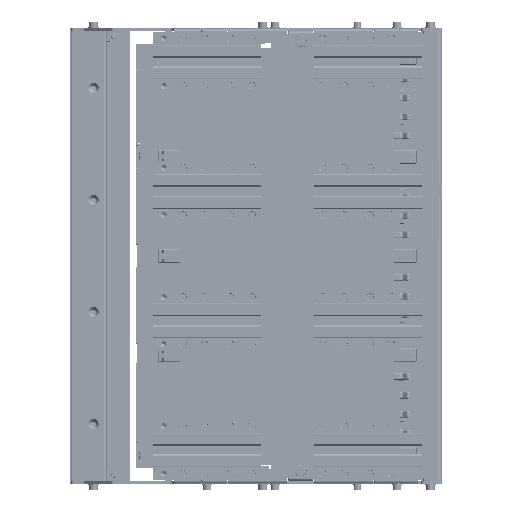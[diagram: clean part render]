
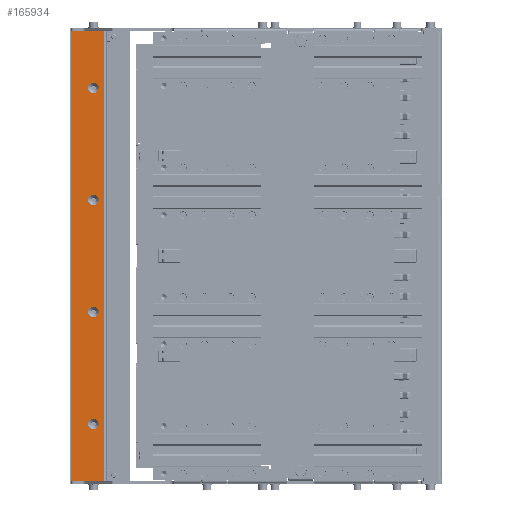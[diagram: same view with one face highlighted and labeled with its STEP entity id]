
A CAD part, left-side view. The second image highlights one B-rep face of the part: STEP entity #165934.
In plain terms, the highlighted planar face has unit normal (-1, 0, 0).
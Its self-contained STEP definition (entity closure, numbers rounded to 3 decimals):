
#2853 = EDGE_LOOP ( 'NONE', ( #227465, #365520 ) ) ;
#5384 = FACE_BOUND ( 'NONE', #366720, .T. ) ;
#7111 = DIRECTION ( 'NONE',  ( 0., 0., -1. ) ) ;
#7186 = LINE ( 'NONE', #232331, #393246 ) ;
#9237 = CARTESIAN_POINT ( 'NONE',  ( 294.756, 591.613, 283.388 ) ) ;
#11769 = CARTESIAN_POINT ( 'NONE',  ( 294.756, 617.613, 349.188 ) ) ;
#15869 = EDGE_CURVE ( 'NONE', #146715, #51069, #87638, .T. ) ;
#19821 = ORIENTED_EDGE ( 'NONE', *, *, #347347, .T. ) ;
#23968 = CARTESIAN_POINT ( 'NONE',  ( 294.756, 591.613, 277.288 ) ) ;
#24341 = DIRECTION ( 'NONE',  ( 0., 0., -1. ) ) ;
#32367 = VERTEX_POINT ( 'NONE', #380963 ) ;
#38768 = ORIENTED_EDGE ( 'NONE', *, *, #317880, .T. ) ;
#39312 = DIRECTION ( 'NONE',  ( 0., 0., 1. ) ) ;
#45997 = EDGE_LOOP ( 'NONE', ( #388534, #223592 ) ) ;
#51069 = VERTEX_POINT ( 'NONE', #186506 ) ;
#55588 = VECTOR ( 'NONE', #114005, 1000. ) ;
#56578 = VECTOR ( 'NONE', #39312, 1000. ) ;
#69579 = CARTESIAN_POINT ( 'NONE',  ( 294.756, 579.413, 349.188 ) ) ;
#73195 = AXIS2_PLACEMENT_3D ( 'NONE', #246484, #85140, #152810 ) ;
#85140 = DIRECTION ( 'NONE',  ( 1., 0., 0. ) ) ;
#87638 = CIRCLE ( 'NONE', #127142, 6.1 ) ;
#93380 = CARTESIAN_POINT ( 'NONE',  ( 294.756, 591.613, 283.388 ) ) ;
#102053 = DIRECTION ( 'NONE',  ( 1., 0., 0. ) ) ;
#106422 = VERTEX_POINT ( 'NONE', #260728 ) ;
#108428 = AXIS2_PLACEMENT_3D ( 'NONE', #262791, #399291, #169198 ) ;
#110907 = VERTEX_POINT ( 'NONE', #297363 ) ;
#113577 = CIRCLE ( 'NONE', #130909, 6.1 ) ;
#114005 = DIRECTION ( 'NONE',  ( 0., -1., 0. ) ) ;
#116140 = EDGE_CURVE ( 'NONE', #110907, #252796, #207077, .T. ) ;
#122283 = CIRCLE ( 'NONE', #336324, 6.1 ) ;
#123912 = DIRECTION ( 'NONE',  ( 0., 0., -1. ) ) ;
#127142 = AXIS2_PLACEMENT_3D ( 'NONE', #129242, #359481, #327752 ) ;
#129242 = CARTESIAN_POINT ( 'NONE',  ( 294.756, 591.613, -106.612 ) ) ;
#130909 = AXIS2_PLACEMENT_3D ( 'NONE', #353085, #282814, #189232 ) ;
#134914 = CIRCLE ( 'NONE', #301987, 6.1 ) ;
#136355 = ORIENTED_EDGE ( 'NONE', *, *, #369055, .T. ) ;
#139355 = FACE_BOUND ( 'NONE', #45997, .T. ) ;
#146715 = VERTEX_POINT ( 'NONE', #169889 ) ;
#151282 = VERTEX_POINT ( 'NONE', #382842 ) ;
#152810 = DIRECTION ( 'NONE',  ( 0., 1., 0. ) ) ;
#153377 = CARTESIAN_POINT ( 'NONE',  ( 294.756, 616.613, 349.188 ) ) ;
#164763 = DIRECTION ( 'NONE',  ( 0., 0., -1. ) ) ;
#165934 = ADVANCED_FACE ( 'NONE', ( #355604, #139355, #381264, #180704, #5384 ), #349902, .F. ) ;
#169198 = DIRECTION ( 'NONE',  ( 0., 0., -1. ) ) ;
#169889 = CARTESIAN_POINT ( 'NONE',  ( 294.756, 591.613, -100.512 ) ) ;
#180704 = FACE_BOUND ( 'NONE', #2853, .T. ) ;
#183143 = CIRCLE ( 'NONE', #343901, 6.1 ) ;
#186232 = VERTEX_POINT ( 'NONE', #194416 ) ;
#186506 = CARTESIAN_POINT ( 'NONE',  ( 294.756, 591.613, -112.712 ) ) ;
#189232 = DIRECTION ( 'NONE',  ( 0., 0., -1. ) ) ;
#193209 = AXIS2_PLACEMENT_3D ( 'NONE', #9237, #302926, #208060 ) ;
#194416 = CARTESIAN_POINT ( 'NONE',  ( 294.756, 579.413, -172.412 ) ) ;
#205938 = CARTESIAN_POINT ( 'NONE',  ( 294.756, 591.613, -106.612 ) ) ;
#207077 = CIRCLE ( 'NONE', #193209, 6.1 ) ;
#208060 = DIRECTION ( 'NONE',  ( 0., 0., -1. ) ) ;
#208628 = DIRECTION ( 'NONE',  ( 0., 0., -1. ) ) ;
#209910 = EDGE_CURVE ( 'NONE', #252796, #110907, #183143, .T. ) ;
#218156 = VERTEX_POINT ( 'NONE', #336887 ) ;
#219043 = CARTESIAN_POINT ( 'NONE',  ( 294.756, 591.613, 29.488 ) ) ;
#223592 = ORIENTED_EDGE ( 'NONE', *, *, #209910, .T. ) ;
#225617 = ORIENTED_EDGE ( 'NONE', *, *, #317447, .T. ) ;
#227465 = ORIENTED_EDGE ( 'NONE', *, *, #276412, .T. ) ;
#232331 = CARTESIAN_POINT ( 'NONE',  ( 294.756, 616.613, 349.188 ) ) ;
#237324 = CARTESIAN_POINT ( 'NONE',  ( 294.756, 591.613, 23.388 ) ) ;
#238813 = LINE ( 'NONE', #355917, #264463 ) ;
#246484 = CARTESIAN_POINT ( 'NONE',  ( 294.756, 617.613, 349.188 ) ) ;
#250884 = CIRCLE ( 'NONE', #108428, 6.1 ) ;
#251977 = EDGE_CURVE ( 'NONE', #298662, #32367, #333412, .T. ) ;
#252796 = VERTEX_POINT ( 'NONE', #23968 ) ;
#260343 = ORIENTED_EDGE ( 'NONE', *, *, #365599, .T. ) ;
#260728 = CARTESIAN_POINT ( 'NONE',  ( 294.756, 616.613, -172.412 ) ) ;
#262791 = CARTESIAN_POINT ( 'NONE',  ( 294.756, 591.613, 153.388 ) ) ;
#264463 = VECTOR ( 'NONE', #320026, 1000. ) ;
#266892 = VERTEX_POINT ( 'NONE', #219043 ) ;
#271081 = ORIENTED_EDGE ( 'NONE', *, *, #251977, .F. ) ;
#272857 = EDGE_CURVE ( 'NONE', #106422, #186232, #238813, .T. ) ;
#276412 = EDGE_CURVE ( 'NONE', #266892, #385386, #134914, .T. ) ;
#278199 = ORIENTED_EDGE ( 'NONE', *, *, #272857, .T. ) ;
#282814 = DIRECTION ( 'NONE',  ( 1., 0., 0. ) ) ;
#287875 = DIRECTION ( 'NONE',  ( 1., 0., 0. ) ) ;
#297363 = CARTESIAN_POINT ( 'NONE',  ( 294.756, 591.613, 289.488 ) ) ;
#298662 = VERTEX_POINT ( 'NONE', #153377 ) ;
#299251 = EDGE_CURVE ( 'NONE', #385386, #266892, #391831, .T. ) ;
#301987 = AXIS2_PLACEMENT_3D ( 'NONE', #237324, #405520, #208628 ) ;
#302926 = DIRECTION ( 'NONE',  ( 1., 0., 0. ) ) ;
#317447 = EDGE_CURVE ( 'NONE', #186232, #32367, #339869, .T. ) ;
#317880 = EDGE_CURVE ( 'NONE', #51069, #146715, #122283, .T. ) ;
#320026 = DIRECTION ( 'NONE',  ( 0., -1., 0. ) ) ;
#324606 = CARTESIAN_POINT ( 'NONE',  ( 294.756, 591.613, 17.288 ) ) ;
#327752 = DIRECTION ( 'NONE',  ( 0., 0., -1. ) ) ;
#333412 = LINE ( 'NONE', #11769, #55588 ) ;
#336324 = AXIS2_PLACEMENT_3D ( 'NONE', #205938, #102053, #7111 ) ;
#336887 = CARTESIAN_POINT ( 'NONE',  ( 294.756, 591.613, 159.488 ) ) ;
#339869 = LINE ( 'NONE', #69579, #56578 ) ;
#343901 = AXIS2_PLACEMENT_3D ( 'NONE', #93380, #287875, #24341 ) ;
#347347 = EDGE_CURVE ( 'NONE', #218156, #151282, #113577, .T. ) ;
#349902 = PLANE ( 'NONE',  #73195 ) ;
#352716 = CARTESIAN_POINT ( 'NONE',  ( 294.756, 591.613, 23.388 ) ) ;
#353085 = CARTESIAN_POINT ( 'NONE',  ( 294.756, 591.613, 153.388 ) ) ;
#355604 = FACE_OUTER_BOUND ( 'NONE', #367810, .T. ) ;
#355917 = CARTESIAN_POINT ( 'NONE',  ( 294.756, 617.613, -172.412 ) ) ;
#356293 = ORIENTED_EDGE ( 'NONE', *, *, #15869, .T. ) ;
#359481 = DIRECTION ( 'NONE',  ( 1., 0., 0. ) ) ;
#365520 = ORIENTED_EDGE ( 'NONE', *, *, #299251, .T. ) ;
#365599 = EDGE_CURVE ( 'NONE', #151282, #218156, #250884, .T. ) ;
#366720 = EDGE_LOOP ( 'NONE', ( #356293, #38768 ) ) ;
#367810 = EDGE_LOOP ( 'NONE', ( #271081, #136355, #278199, #225617 ) ) ;
#369055 = EDGE_CURVE ( 'NONE', #298662, #106422, #7186, .T. ) ;
#372589 = EDGE_LOOP ( 'NONE', ( #19821, #260343 ) ) ;
#380963 = CARTESIAN_POINT ( 'NONE',  ( 294.756, 579.413, 349.188 ) ) ;
#381264 = FACE_BOUND ( 'NONE', #372589, .T. ) ;
#382842 = CARTESIAN_POINT ( 'NONE',  ( 294.756, 591.613, 147.288 ) ) ;
#383026 = DIRECTION ( 'NONE',  ( 1., 0., 0. ) ) ;
#385386 = VERTEX_POINT ( 'NONE', #324606 ) ;
#388534 = ORIENTED_EDGE ( 'NONE', *, *, #116140, .T. ) ;
#391831 = CIRCLE ( 'NONE', #402212, 6.1 ) ;
#393246 = VECTOR ( 'NONE', #164763, 1000. ) ;
#399291 = DIRECTION ( 'NONE',  ( 1., 0., 0. ) ) ;
#402212 = AXIS2_PLACEMENT_3D ( 'NONE', #352716, #383026, #123912 ) ;
#405520 = DIRECTION ( 'NONE',  ( 1., 0., 0. ) ) ;
